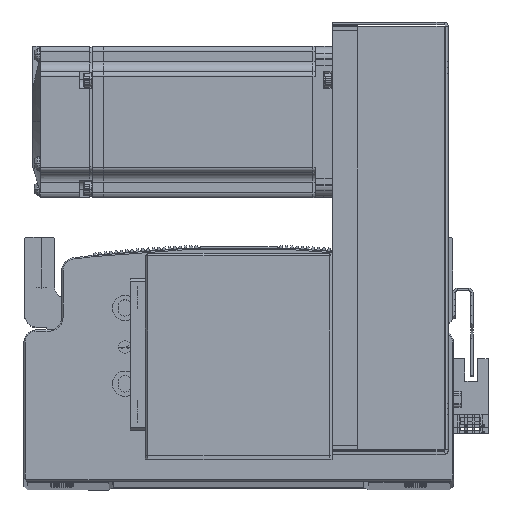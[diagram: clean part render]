
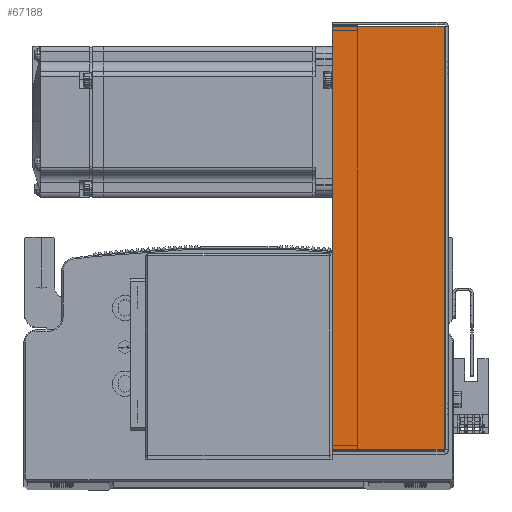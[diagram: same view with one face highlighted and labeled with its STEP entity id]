
A CAD part, top view. The second image highlights one B-rep face of the part: STEP entity #67188.
In plain terms, the highlighted planar face has unit normal (0, 0, 1).
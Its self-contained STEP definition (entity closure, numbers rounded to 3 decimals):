
#6473 = VERTEX_POINT ( 'NONE', #81468 ) ;
#6493 = VERTEX_POINT ( 'NONE', #81427 ) ;
#6513 = VERTEX_POINT ( 'NONE', #81461 ) ;
#6571 = VERTEX_POINT ( 'NONE', #81490 ) ;
#10906 = DIRECTION ( 'NONE',  ( -1., 0., 0. ) ) ;
#10913 = DIRECTION ( 'NONE',  ( 0., 0., -1. ) ) ;
#10940 = PLANE ( 'NONE',  #31335 ) ;
#10943 = CARTESIAN_POINT ( 'NONE',  ( 0., 0., 40.5 ) ) ;
#18120 = FACE_OUTER_BOUND ( 'NONE', #44828, .T. ) ;
#29530 = CARTESIAN_POINT ( 'NONE',  ( 0., 0.737, 40.5 ) ) ;
#29554 = DIRECTION ( 'NONE',  ( -1., 0., 0. ) ) ;
#29798 = DIRECTION ( 'NONE',  ( 0., 1., 0. ) ) ;
#29804 = CARTESIAN_POINT ( 'NONE',  ( 83.793, 0., 40.5 ) ) ;
#29918 = CARTESIAN_POINT ( 'NONE',  ( -84.5, 45., 40.5 ) ) ;
#29941 = DIRECTION ( 'NONE',  ( -1., 0., 0. ) ) ;
#30055 = DIRECTION ( 'NONE',  ( 0., 1., 0. ) ) ;
#30067 = CARTESIAN_POINT ( 'NONE',  ( -83.793, 0., 40.5 ) ) ;
#31335 = AXIS2_PLACEMENT_3D ( 'NONE', #10943, #10913, #10906 ) ;
#44455 = ORIENTED_EDGE ( 'NONE', *, *, #50504, .T. ) ;
#44479 = ORIENTED_EDGE ( 'NONE', *, *, #50563, .F. ) ;
#44517 = ORIENTED_EDGE ( 'NONE', *, *, #50165, .F. ) ;
#44643 = ORIENTED_EDGE ( 'NONE', *, *, #50392, .T. ) ;
#44828 = EDGE_LOOP ( 'NONE', ( #44517, #44643, #44455, #44479 ) ) ;
#50165 = EDGE_CURVE ( 'NONE', #6473, #6493, #78330, .T. ) ;
#50392 = EDGE_CURVE ( 'NONE', #6473, #6571, #78419, .T. ) ;
#50504 = EDGE_CURVE ( 'NONE', #6571, #6513, #78455, .T. ) ;
#50563 = EDGE_CURVE ( 'NONE', #6493, #6513, #78495, .T. ) ;
#67188 = ADVANCED_FACE ( 'NONE', ( #18120 ), #10940, .F. ) ;
#78330 = LINE ( 'NONE', #29530, #78346 ) ;
#78346 = VECTOR ( 'NONE', #29554, 1000. ) ;
#78419 = LINE ( 'NONE', #29804, #78425 ) ;
#78425 = VECTOR ( 'NONE', #29798, 1000. ) ;
#78455 = LINE ( 'NONE', #29918, #78498 ) ;
#78477 = VECTOR ( 'NONE', #30055, 1000. ) ;
#78495 = LINE ( 'NONE', #30067, #78477 ) ;
#78498 = VECTOR ( 'NONE', #29941, 1000. ) ;
#81427 = CARTESIAN_POINT ( 'NONE',  ( -83.793, 0.737, 40.5 ) ) ;
#81461 = CARTESIAN_POINT ( 'NONE',  ( -83.793, 45., 40.5 ) ) ;
#81468 = CARTESIAN_POINT ( 'NONE',  ( 83.793, 0.737, 40.5 ) ) ;
#81490 = CARTESIAN_POINT ( 'NONE',  ( 83.793, 45., 40.5 ) ) ;
